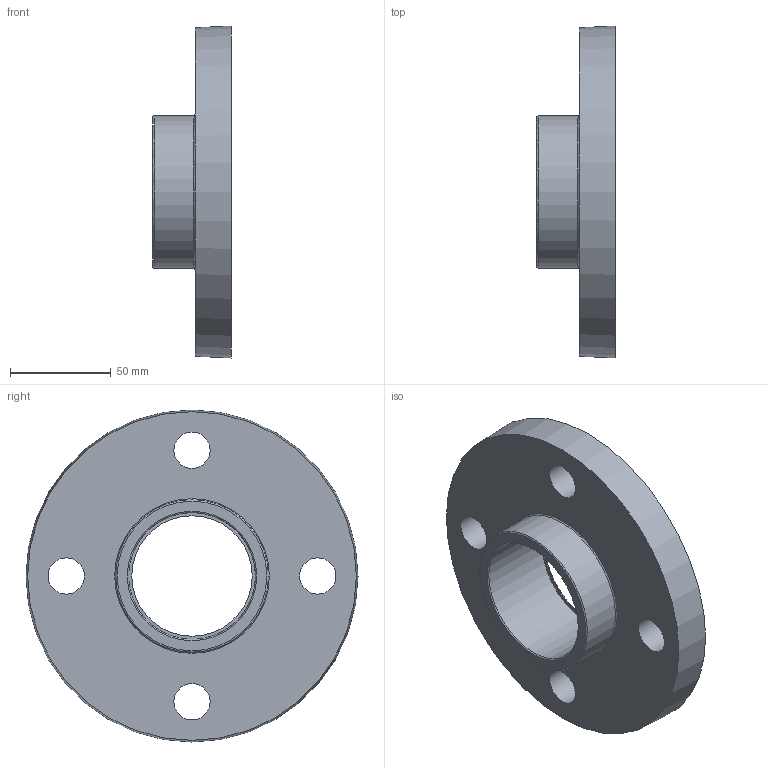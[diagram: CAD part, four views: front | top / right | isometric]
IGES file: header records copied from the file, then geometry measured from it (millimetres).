
Global section: file name: 059200063.ipt; native system: Autodesk Inventor 2015; preprocessor: unknown; author: KIM; date: 20180927.115502; units: millimetre
Bounding box: 39 x 165 x 165 mm (x, y, z)
Volume: 335519 mm3; surface area: 60922.4 mm2
Topology: 1 solids, 1 shells, 28 faces, 62 edges, 44 vertices
Faces by surface type: revolution 13, plane 10, cylinder 4, cone 1
Full cylindrical faces by diameter (mm): 62.76 x1, 66.06 x1, 69.36 x1, 75.6 x1
